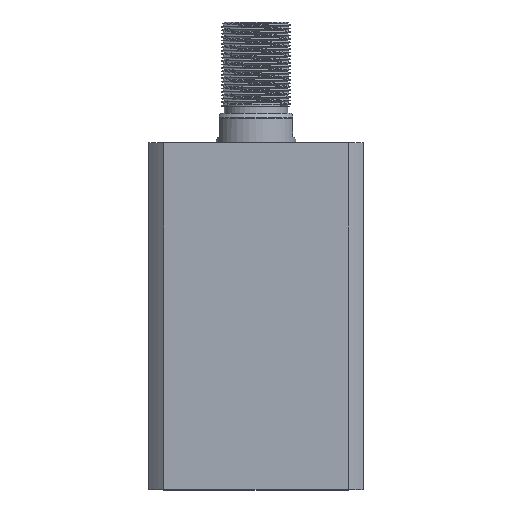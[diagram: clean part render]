
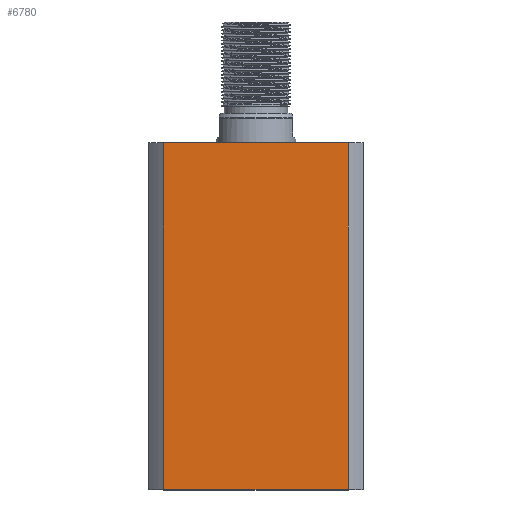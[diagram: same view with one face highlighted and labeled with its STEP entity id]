
A CAD part, top view. The second image highlights one B-rep face of the part: STEP entity #6780.
In plain terms, the highlighted planar face has unit normal (0, 0, 1) as drawn and (0, 1, 0) by its records, which use the part's own axes.
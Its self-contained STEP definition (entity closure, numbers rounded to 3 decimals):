
#1883 = ORIENTED_EDGE ( 'NONE', *, *, #21969, .F. ) ;
#2637 = VECTOR ( 'NONE', #20360, 1000. ) ;
#2806 = EDGE_CURVE ( 'NONE', #6518, #7365, #3421, .T. ) ;
#3421 = LINE ( 'NONE', #14708, #12755 ) ;
#4237 = DIRECTION ( 'NONE',  ( -1., 0., 0. ) ) ;
#5316 = CARTESIAN_POINT ( 'NONE',  ( 40.435, 47., -2848. ) ) ;
#5467 = VERTEX_POINT ( 'NONE', #15524 ) ;
#6242 = EDGE_CURVE ( 'NONE', #5467, #15605, #13740, .T. ) ;
#6518 = VERTEX_POINT ( 'NONE', #9395 ) ;
#6780 = ADVANCED_FACE ( 'NONE', ( #9934 ), #14986, .F. ) ;
#7365 = VERTEX_POINT ( 'NONE', #14061 ) ;
#8097 = DIRECTION ( 'NONE',  ( 0., 0., -1. ) ) ;
#8238 = CARTESIAN_POINT ( 'NONE',  ( -40.435, 47., 0. ) ) ;
#8412 = CARTESIAN_POINT ( 'NONE',  ( -47., 47., 0. ) ) ;
#9362 = ORIENTED_EDGE ( 'NONE', *, *, #2806, .F. ) ;
#9395 = CARTESIAN_POINT ( 'NONE',  ( 40.435, 47., 152. ) ) ;
#9471 = AXIS2_PLACEMENT_3D ( 'NONE', #11521, #18412, #8097 ) ;
#9934 = FACE_OUTER_BOUND ( 'NONE', #14958, .T. ) ;
#10175 = DIRECTION ( 'NONE',  ( -1., 0., 0. ) ) ;
#10556 = DIRECTION ( 'NONE',  ( 0., 0., 1. ) ) ;
#11097 = VECTOR ( 'NONE', #10556, 1000. ) ;
#11521 = CARTESIAN_POINT ( 'NONE',  ( -47., 47., 152. ) ) ;
#11820 = EDGE_CURVE ( 'NONE', #5467, #6518, #19660, .T. ) ;
#12755 = VECTOR ( 'NONE', #4237, 1000. ) ;
#13740 = LINE ( 'NONE', #8412, #22232 ) ;
#14061 = CARTESIAN_POINT ( 'NONE',  ( -40.435, 47., 152. ) ) ;
#14214 = ORIENTED_EDGE ( 'NONE', *, *, #11820, .F. ) ;
#14708 = CARTESIAN_POINT ( 'NONE',  ( -47., 47., 152. ) ) ;
#14958 = EDGE_LOOP ( 'NONE', ( #14214, #19270, #1883, #9362 ) ) ;
#14986 = PLANE ( 'NONE',  #9471 ) ;
#15524 = CARTESIAN_POINT ( 'NONE',  ( 40.435, 47., 0. ) ) ;
#15605 = VERTEX_POINT ( 'NONE', #8238 ) ;
#18412 = DIRECTION ( 'NONE',  ( 0., -1., 0. ) ) ;
#18665 = CARTESIAN_POINT ( 'NONE',  ( -40.435, 47., -2848. ) ) ;
#19270 = ORIENTED_EDGE ( 'NONE', *, *, #6242, .T. ) ;
#19460 = LINE ( 'NONE', #18665, #2637 ) ;
#19660 = LINE ( 'NONE', #5316, #11097 ) ;
#20360 = DIRECTION ( 'NONE',  ( 0., 0., -1. ) ) ;
#21969 = EDGE_CURVE ( 'NONE', #7365, #15605, #19460, .T. ) ;
#22232 = VECTOR ( 'NONE', #10175, 1000. ) ;
